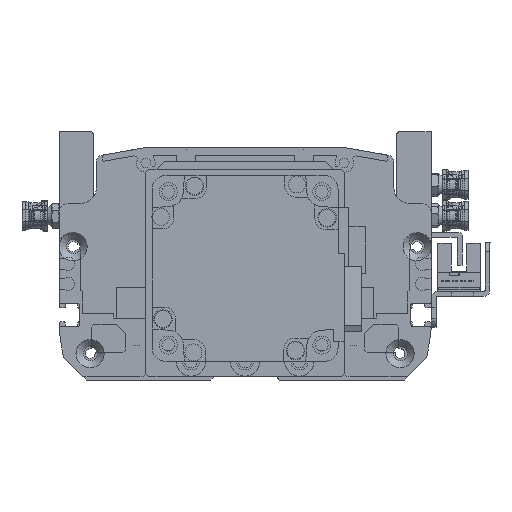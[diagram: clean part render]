
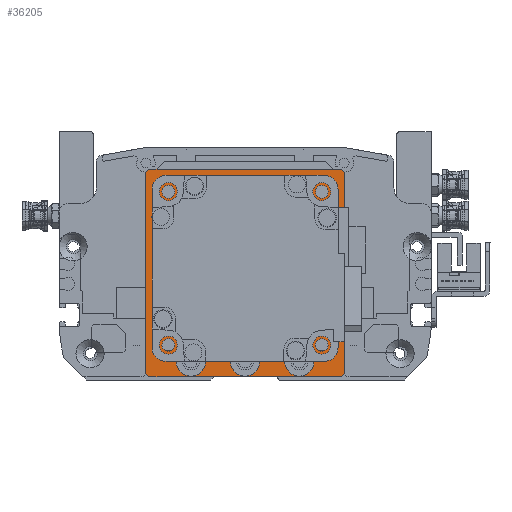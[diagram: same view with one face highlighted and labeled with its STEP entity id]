
A CAD part, front view. The second image highlights one B-rep face of the part: STEP entity #36205.
In plain terms, the highlighted planar face has unit normal (0, -1, 0) as drawn and (0, 0, 1) by its records, which use the part's own axes.
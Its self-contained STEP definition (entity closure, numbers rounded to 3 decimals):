
#1304=FACE_BOUND('',#7305,.T.);
#1305=FACE_BOUND('',#7306,.T.);
#1306=FACE_BOUND('',#7307,.T.);
#1307=FACE_BOUND('',#7308,.T.);
#1308=FACE_BOUND('',#7309,.T.);
#1309=FACE_BOUND('',#7310,.T.);
#1310=FACE_BOUND('',#7311,.T.);
#1311=FACE_BOUND('',#7312,.T.);
#2050=PLANE('',#40361);
#4969=FACE_OUTER_BOUND('',#7304,.T.);
#7304=EDGE_LOOP('',(#32574,#32575,#32576,#32577,#32578,#32579,#32580,#32581));
#7305=EDGE_LOOP('',(#32582));
#7306=EDGE_LOOP('',(#32583));
#7307=EDGE_LOOP('',(#32584));
#7308=EDGE_LOOP('',(#32585));
#7309=EDGE_LOOP('',(#32586));
#7310=EDGE_LOOP('',(#32587));
#7311=EDGE_LOOP('',(#32588));
#7312=EDGE_LOOP('',(#32589));
#9957=LINE('',#64348,#12762);
#9959=LINE('',#64352,#12764);
#9962=LINE('',#64358,#12767);
#9963=LINE('',#64360,#12768);
#9964=LINE('',#64362,#12769);
#9965=LINE('',#64364,#12770);
#9966=LINE('',#64366,#12771);
#9967=LINE('',#64367,#12772);
#12762=VECTOR('',#49923,10.);
#12764=VECTOR('',#49927,10.);
#12767=VECTOR('',#49932,10.);
#12768=VECTOR('',#49933,10.);
#12769=VECTOR('',#49934,10.);
#12770=VECTOR('',#49935,10.);
#12771=VECTOR('',#49936,10.);
#12772=VECTOR('',#49937,10.);
#15009=CIRCLE('',#40362,25.);
#15010=CIRCLE('',#40363,2.067);
#15011=CIRCLE('',#40364,2.067);
#15012=CIRCLE('',#40365,2.067);
#15013=CIRCLE('',#40366,2.067);
#15014=CIRCLE('',#40367,4.75);
#15015=CIRCLE('',#40368,4.75);
#15016=CIRCLE('',#40369,4.75);
#18226=VERTEX_POINT('',#64345);
#18227=VERTEX_POINT('',#64347);
#18228=VERTEX_POINT('',#64351);
#18230=VERTEX_POINT('',#64357);
#18231=VERTEX_POINT('',#64359);
#18232=VERTEX_POINT('',#64361);
#18233=VERTEX_POINT('',#64363);
#18234=VERTEX_POINT('',#64365);
#18235=VERTEX_POINT('',#64368);
#18236=VERTEX_POINT('',#64370);
#18237=VERTEX_POINT('',#64372);
#18238=VERTEX_POINT('',#64374);
#18239=VERTEX_POINT('',#64376);
#18240=VERTEX_POINT('',#64378);
#18241=VERTEX_POINT('',#64380);
#18242=VERTEX_POINT('',#64382);
#23106=EDGE_CURVE('',#18226,#18227,#9957,.T.);
#23108=EDGE_CURVE('',#18228,#18227,#9959,.T.);
#23111=EDGE_CURVE('',#18226,#18230,#9962,.T.);
#23112=EDGE_CURVE('',#18231,#18230,#9963,.T.);
#23113=EDGE_CURVE('',#18231,#18232,#9964,.T.);
#23114=EDGE_CURVE('',#18233,#18232,#9965,.T.);
#23115=EDGE_CURVE('',#18233,#18234,#9966,.T.);
#23116=EDGE_CURVE('',#18228,#18234,#9967,.T.);
#23117=EDGE_CURVE('',#18235,#18235,#15009,.T.);
#23118=EDGE_CURVE('',#18236,#18236,#15010,.T.);
#23119=EDGE_CURVE('',#18237,#18237,#15011,.T.);
#23120=EDGE_CURVE('',#18238,#18238,#15012,.T.);
#23121=EDGE_CURVE('',#18239,#18239,#15013,.T.);
#23122=EDGE_CURVE('',#18240,#18240,#15014,.T.);
#23123=EDGE_CURVE('',#18241,#18241,#15015,.T.);
#23124=EDGE_CURVE('',#18242,#18242,#15016,.T.);
#32574=ORIENTED_EDGE('',*,*,#23106,.F.);
#32575=ORIENTED_EDGE('',*,*,#23111,.T.);
#32576=ORIENTED_EDGE('',*,*,#23112,.F.);
#32577=ORIENTED_EDGE('',*,*,#23113,.T.);
#32578=ORIENTED_EDGE('',*,*,#23114,.F.);
#32579=ORIENTED_EDGE('',*,*,#23115,.T.);
#32580=ORIENTED_EDGE('',*,*,#23116,.F.);
#32581=ORIENTED_EDGE('',*,*,#23108,.T.);
#32582=ORIENTED_EDGE('',*,*,#23117,.T.);
#32583=ORIENTED_EDGE('',*,*,#23118,.T.);
#32584=ORIENTED_EDGE('',*,*,#23119,.T.);
#32585=ORIENTED_EDGE('',*,*,#23120,.T.);
#32586=ORIENTED_EDGE('',*,*,#23121,.T.);
#32587=ORIENTED_EDGE('',*,*,#23122,.T.);
#32588=ORIENTED_EDGE('',*,*,#23123,.T.);
#32589=ORIENTED_EDGE('',*,*,#23124,.T.);
#36205=ADVANCED_FACE('',(#4969,#1304,#1305,#1306,#1307,#1308,#1309,#1310,
#1311),#2050,.T.);
#40361=AXIS2_PLACEMENT_3D('',#64356,#49930,#49931);
#40362=AXIS2_PLACEMENT_3D('',#64369,#49938,#49939);
#40363=AXIS2_PLACEMENT_3D('',#64371,#49940,#49941);
#40364=AXIS2_PLACEMENT_3D('',#64373,#49942,#49943);
#40365=AXIS2_PLACEMENT_3D('',#64375,#49944,#49945);
#40366=AXIS2_PLACEMENT_3D('',#64377,#49946,#49947);
#40367=AXIS2_PLACEMENT_3D('',#64379,#49948,#49949);
#40368=AXIS2_PLACEMENT_3D('',#64381,#49950,#49951);
#40369=AXIS2_PLACEMENT_3D('',#64383,#49952,#49953);
#49923=DIRECTION('',(0.707,0.707,0.));
#49927=DIRECTION('',(-1.,0.,0.));
#49930=DIRECTION('center_axis',(0.,0.,1.));
#49931=DIRECTION('ref_axis',(1.,0.,0.));
#49932=DIRECTION('',(0.,-1.,0.));
#49933=DIRECTION('',(-0.707,0.707,0.));
#49934=DIRECTION('',(1.,0.,0.));
#49935=DIRECTION('',(-0.707,-0.707,0.));
#49936=DIRECTION('',(0.,1.,0.));
#49937=DIRECTION('',(0.707,-0.707,0.));
#49938=DIRECTION('center_axis',(0.,0.,-1.));
#49939=DIRECTION('ref_axis',(1.,0.,0.));
#49940=DIRECTION('center_axis',(0.,0.,-1.));
#49941=DIRECTION('ref_axis',(1.,0.,0.));
#49942=DIRECTION('center_axis',(0.,0.,-1.));
#49943=DIRECTION('ref_axis',(1.,0.,0.));
#49944=DIRECTION('center_axis',(0.,0.,-1.));
#49945=DIRECTION('ref_axis',(1.,0.,0.));
#49946=DIRECTION('center_axis',(0.,0.,-1.));
#49947=DIRECTION('ref_axis',(1.,0.,0.));
#49948=DIRECTION('center_axis',(0.,0.,-1.));
#49949=DIRECTION('ref_axis',(1.,0.,0.));
#49950=DIRECTION('center_axis',(0.,0.,-1.));
#49951=DIRECTION('ref_axis',(1.,0.,0.));
#49952=DIRECTION('center_axis',(0.,0.,-1.));
#49953=DIRECTION('ref_axis',(1.,0.,0.));
#64345=CARTESIAN_POINT('',(-32.,31.,62.));
#64347=CARTESIAN_POINT('',(-31.,32.,62.));
#64348=CARTESIAN_POINT('',(-31.5,31.5,62.));
#64351=CARTESIAN_POINT('',(31.,32.,62.));
#64352=CARTESIAN_POINT('',(46.613,32.,62.));
#64356=CARTESIAN_POINT('Origin',(0.,0.,
62.));
#64357=CARTESIAN_POINT('',(-32.,-34.,62.));
#64358=CARTESIAN_POINT('',(-32.,35.,62.));
#64359=CARTESIAN_POINT('',(-31.,-35.,62.));
#64360=CARTESIAN_POINT('',(-32.25,-33.75,62.));
#64361=CARTESIAN_POINT('',(31.,-35.,62.));
#64362=CARTESIAN_POINT('',(-32.,-35.,62.));
#64363=CARTESIAN_POINT('',(32.,-34.,62.));
#64364=CARTESIAN_POINT('',(32.25,-33.75,62.));
#64365=CARTESIAN_POINT('',(32.,31.,62.));
#64366=CARTESIAN_POINT('',(32.,-35.,62.));
#64367=CARTESIAN_POINT('',(31.5,31.5,62.));
#64368=CARTESIAN_POINT('',(-25.,0.,62.));
#64369=CARTESIAN_POINT('Origin',(0.,0.,62.));
#64370=CARTESIAN_POINT('',(22.682,-24.749,62.));
#64371=CARTESIAN_POINT('Origin',(24.749,-24.749,62.));
#64372=CARTESIAN_POINT('',(22.682,24.749,62.));
#64373=CARTESIAN_POINT('Origin',(24.749,24.749,62.));
#64374=CARTESIAN_POINT('',(-26.816,24.749,62.));
#64375=CARTESIAN_POINT('Origin',(-24.749,24.749,62.));
#64376=CARTESIAN_POINT('',(-26.816,-24.749,62.));
#64377=CARTESIAN_POINT('Origin',(-24.749,-24.749,62.));
#64378=CARTESIAN_POINT('',(-4.75,-30.,62.));
#64379=CARTESIAN_POINT('Origin',(0.,-30.,62.));
#64380=CARTESIAN_POINT('',(12.75,-30.,62.));
#64381=CARTESIAN_POINT('Origin',(17.5,-30.,62.));
#64382=CARTESIAN_POINT('',(-22.25,-30.,62.));
#64383=CARTESIAN_POINT('Origin',(-17.5,-30.,62.));
